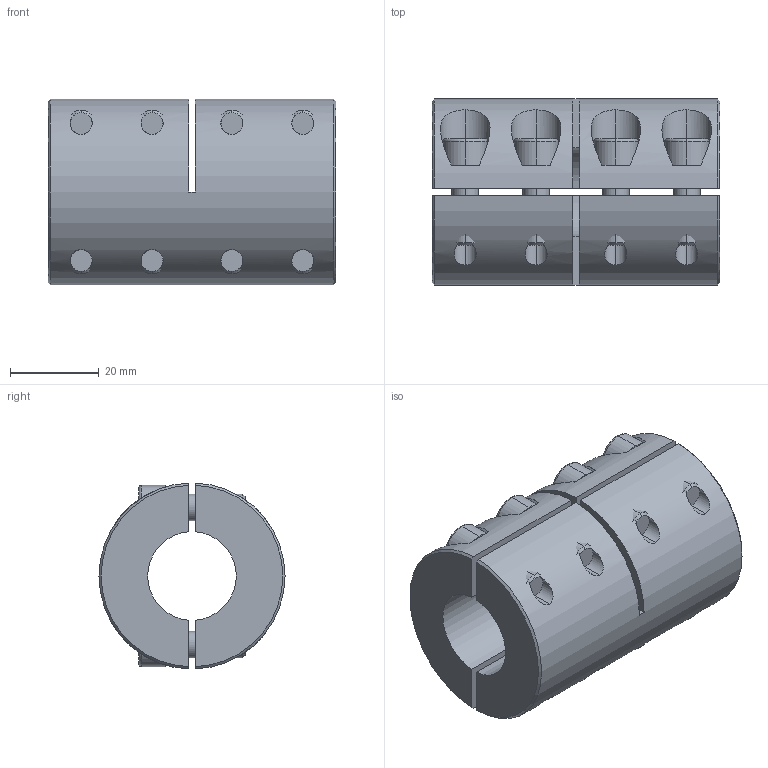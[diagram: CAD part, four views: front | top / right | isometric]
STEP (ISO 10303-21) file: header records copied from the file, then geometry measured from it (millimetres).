
FILE_DESCRIPTION (( 'STEP AP203' ), '1' );
FILE_NAME ('GRD-20-20.STEP', '2025-11-27T10:23:01', ( '' ), ( '' ), 'SwSTEP 2.0', 'SolidWorks 2021', '' );
FILE_SCHEMA (( 'CONFIG_CONTROL_DESIGN' ));
Length unit declared in the file: millimetre
Products named in the file (1): GRD-20-20
Bounding box: 65 x 42 x 41.97 mm (x, y, z)
Volume: 64445 mm3; surface area: 26883.9 mm2
Topology: 10 solids, 10 shells, 296 faces, 668 edges, 400 vertices
Faces by surface type: plane 144, cylinder 84, cone 36, torus 32
Entity records: 10627 total; most frequent: CARTESIAN_POINT 3833, DIRECTION 1482, ORIENTED_EDGE 1304, EDGE_CURVE 652, AXIS2_PLACEMENT_3D 573, VERTEX_POINT 400, EDGE_LOOP 352, LINE 336
